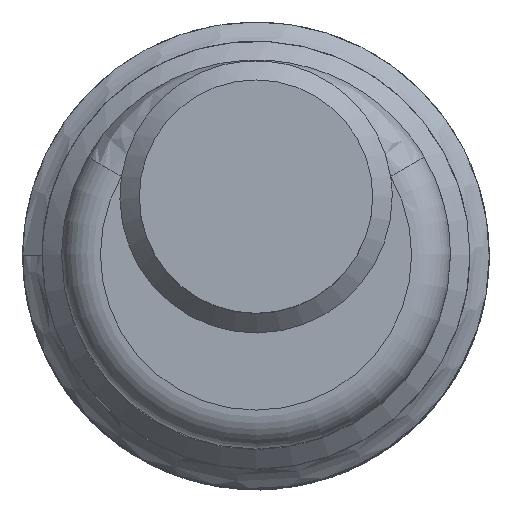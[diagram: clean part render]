
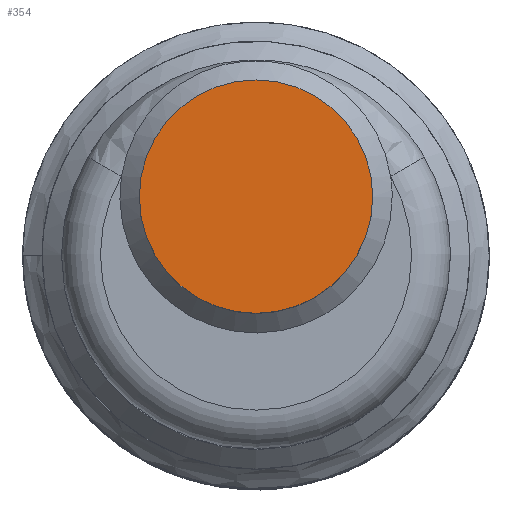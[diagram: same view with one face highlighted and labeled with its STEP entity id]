
A CAD part, top view. The second image highlights one B-rep face of the part: STEP entity #354.
In plain terms, the highlighted planar face has unit normal (0, 0, 1).
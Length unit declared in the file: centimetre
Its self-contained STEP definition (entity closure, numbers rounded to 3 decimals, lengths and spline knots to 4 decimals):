
#191=VERTEX_POINT('',#4377);
#228=EDGE_CURVE('',#191,#191,#651,.T.);
#289=ORIENTED_EDGE('',*,*,#228,.F.);
#313=EDGE_LOOP('',(#289));
#337=FACE_BOUND('',#313,.T.);
#354=ADVANCED_FACE('',(#337),#854,.T.);
#651=CIRCLE('',#805,0.3);
#805=AXIS2_PLACEMENT_3D('',#4376,#1030,#1031);
#806=AXIS2_PLACEMENT_3D('',#4378,#1032,$);
#854=PLANE('',#806);
#1030=DIRECTION('',(0.,0.,-1.));
#1031=DIRECTION('',(0.3,0.,0.));
#1032=DIRECTION('',(0.,0.,1.));
#4376=CARTESIAN_POINT('',(0.,0.1482,4.45));
#4377=CARTESIAN_POINT('',(0.3,0.1482,4.45));
#4378=CARTESIAN_POINT('',(0.,0.1482,4.45));
